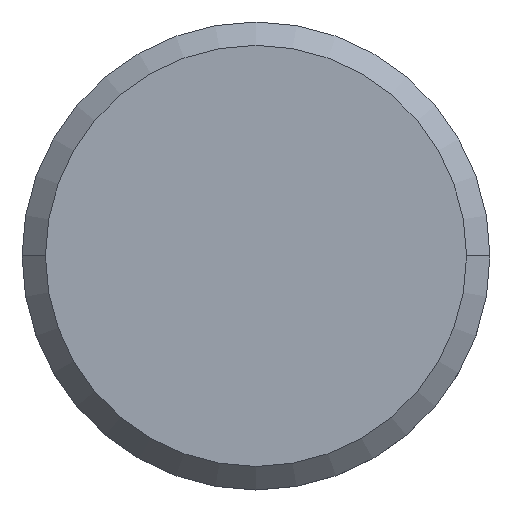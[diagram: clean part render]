
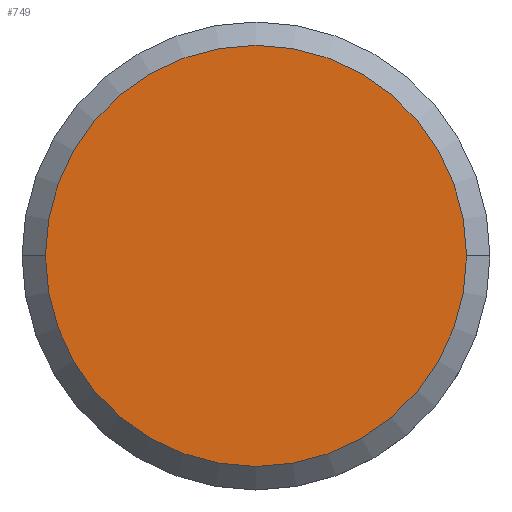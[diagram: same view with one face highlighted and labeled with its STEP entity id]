
A CAD part, top view. The second image highlights one B-rep face of the part: STEP entity #749.
In plain terms, the highlighted planar face has unit normal (0, 0, 1).
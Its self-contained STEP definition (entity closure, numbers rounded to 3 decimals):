
#82 = EDGE_CURVE ( 'NONE', #457, #209, #601, .T. ) ;
#157 = AXIS2_PLACEMENT_3D ( 'NONE', #405, #409, #426 ) ;
#209 = VERTEX_POINT ( 'NONE', #261 ) ;
#230 = CARTESIAN_POINT ( 'NONE',  ( 0., 0., 0. ) ) ;
#261 = CARTESIAN_POINT ( 'NONE',  ( 9., 0., 0. ) ) ;
#315 = DIRECTION ( 'NONE',  ( 0., 0., 1. ) ) ;
#320 = DIRECTION ( 'NONE',  ( -1., 0., 0. ) ) ;
#372 = ORIENTED_EDGE ( 'NONE', *, *, #672, .T. ) ;
#405 = CARTESIAN_POINT ( 'NONE',  ( 0., 0., 0. ) ) ;
#407 = ORIENTED_EDGE ( 'NONE', *, *, #82, .T. ) ;
#409 = DIRECTION ( 'NONE',  ( 0., 0., 1. ) ) ;
#426 = DIRECTION ( 'NONE',  ( -1., 0., 0. ) ) ;
#438 = DIRECTION ( 'NONE',  ( 0., 0., -1. ) ) ;
#457 = VERTEX_POINT ( 'NONE', #578 ) ;
#485 = CARTESIAN_POINT ( 'NONE',  ( 0., 0., 0. ) ) ;
#514 = DIRECTION ( 'NONE',  ( -1., 0., 0. ) ) ;
#537 = PLANE ( 'NONE',  #554 ) ;
#554 = AXIS2_PLACEMENT_3D ( 'NONE', #485, #438, #514 ) ;
#578 = CARTESIAN_POINT ( 'NONE',  ( -9., 0., 0. ) ) ;
#601 = CIRCLE ( 'NONE', #157, 9. ) ;
#672 = EDGE_CURVE ( 'NONE', #209, #457, #735, .T. ) ;
#732 = AXIS2_PLACEMENT_3D ( 'NONE', #230, #315, #320 ) ;
#735 = CIRCLE ( 'NONE', #732, 9. ) ;
#749 = ADVANCED_FACE ( 'NONE', ( #803 ), #537, .F. ) ;
#803 = FACE_OUTER_BOUND ( 'NONE', #920, .T. ) ;
#920 = EDGE_LOOP ( 'NONE', ( #407, #372 ) ) ;
